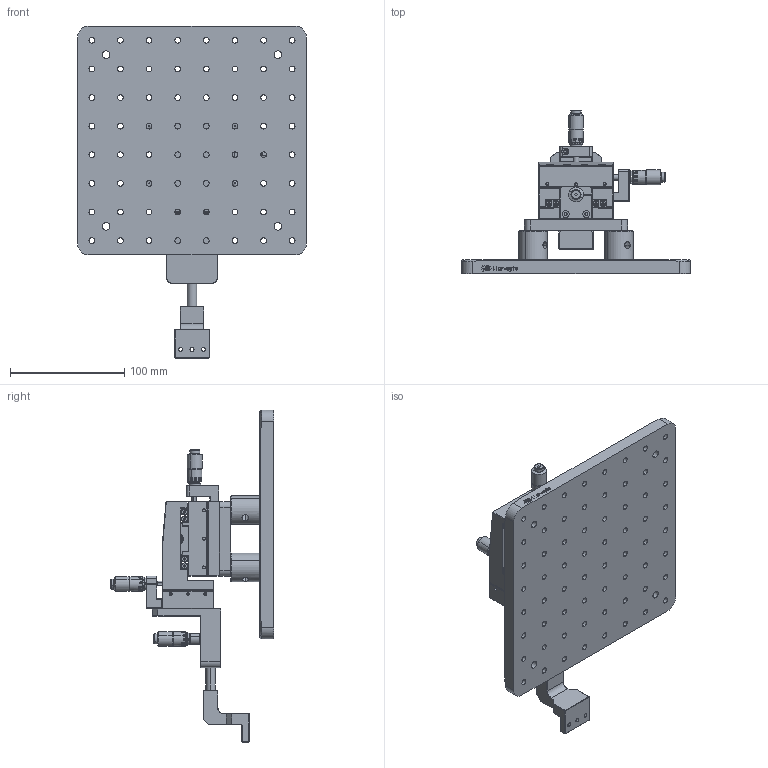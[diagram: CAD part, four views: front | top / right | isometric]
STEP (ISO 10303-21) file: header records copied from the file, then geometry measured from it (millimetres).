
FILE_DESCRIPTION (( 'STEP AP214' ), '1' );
FILE_NAME ('扞け釱拸棠郪磁.STEP', '2026-10-08T07:27:42', ( '' ), ( '' ), 'SwSTEP 2.0', 'SolidWorks 2024', '' );
FILE_SCHEMA (( 'AUTOMOTIVE_DESIGN' ));
Length unit declared in the file: millimetre
Products named in the file (1): 射频座无磁组合
Bounding box: 200 x 142.7 x 290 mm (x, y, z)
Surface area: 199882.3 mm2 (no closed solid volume)
Topology: 0 solids, 144 shells, 1242 faces, 6930 edges, 5648 vertices
Faces by surface type: plane 508, cylinder 433, cone 276, torus 20, bspline 5
Entity records: 96384 total; most frequent: CARTESIAN_POINT 45694, DIRECTION 9665, ORIENTED_EDGE 9207, EDGE_CURVE 6930, VERTEX_POINT 5648, AXIS2_PLACEMENT_3D 3350, VECTOR 2965, LINE 2965
